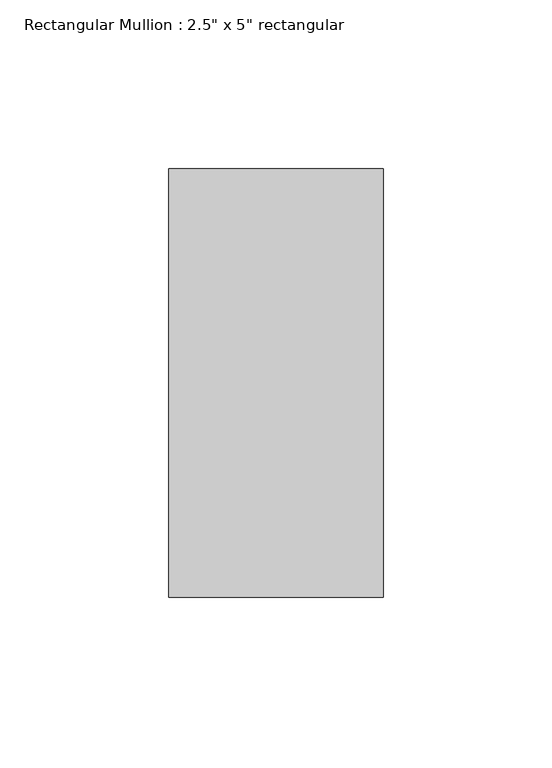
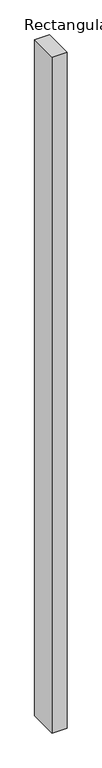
"""IFC4 building model written with IfcOpenShell, lengths in millimetres: member geometry."""

from ifc_helpers import new_model, si_unit, frame, origin, place, context, project, spatial, polyline, outline, extrude, source, transform, mapped, element, save


def member_13b0e0f4(model_context):
    return source(origin(), model_context, "Body", "SweptSolid", [
        extrude(outline(polyline([(0.0, 63.5), (0.0, -63.5), (-63.5, -63.5), (-63.5, 63.5), (0.0, 63.5)])), frame((0.0, 0.0, -3016.25), z_axis=(0.0, 0.0, 1.0), x_axis=(1.0, 0.0, 0.0)), (0.0, 0.0, 1.0), 3016.25),
    ])


if __name__ == "__main__":
    model = new_model("IFC4")
    model_context = context("Model", 3, world=origin())
    ifc_project = project(units=[si_unit("LENGTHUNIT", "METRE", prefix="MILLI")], contexts=[model_context])
    site = spatial("IfcSite", under=ifc_project)
    building = spatial("IfcBuilding", under=site)
    placement = place(None, origin())
    member_shape = member_13b0e0f4(model_context)
    element("IfcMember", 1, ObjectType="Rectangular Mullion : 2.5\" x 5\" rectangular", at=placement, inside=building, context=model_context, shape_type="MappedRepresentation", body=[
        mapped(member_shape, transform((0.0, 0.0, 0.0), x_axis=(1.0, 0.0, 0.0), y_axis=(0.0, 1.0, 0.0), z_axis=(0.0, 0.0, 1.0))),
    ])
    save(model, "model.ifc")
